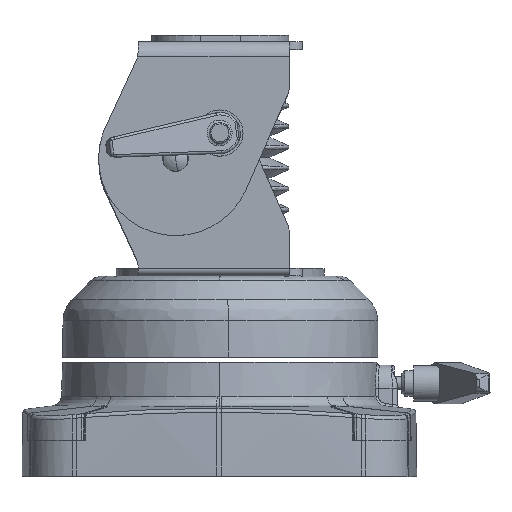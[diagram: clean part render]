
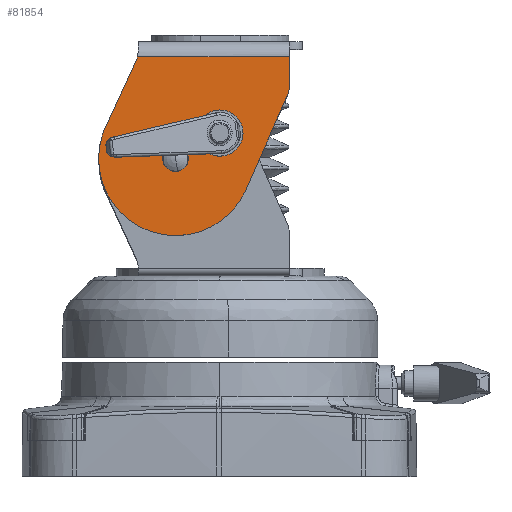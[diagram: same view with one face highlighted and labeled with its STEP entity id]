
A CAD part, top view. The second image highlights one B-rep face of the part: STEP entity #81854.
In plain terms, the highlighted planar face has unit normal (0, 0, 1) as drawn and (1, 0, 0) by its records, which use the part's own axes.
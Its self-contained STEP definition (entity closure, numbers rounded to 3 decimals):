
#669 = ORIENTED_EDGE ( 'NONE', *, *, #93306, .T. ) ;
#2057 = DIRECTION ( 'NONE',  ( 1., 0., 0. ) ) ;
#4076 = DIRECTION ( 'NONE',  ( 0., -1., 0. ) ) ;
#4213 = DIRECTION ( 'NONE',  ( 1., 0., 0. ) ) ;
#5379 = ORIENTED_EDGE ( 'NONE', *, *, #129612, .F. ) ;
#6177 = CARTESIAN_POINT ( 'NONE',  ( 979.936, 479.201, -35.149 ) ) ;
#6237 = CARTESIAN_POINT ( 'NONE',  ( 979.936, 504.084, -42.501 ) ) ;
#7080 = FACE_OUTER_BOUND ( 'NONE', #24698, .T. ) ;
#7109 = DIRECTION ( 'NONE',  ( 1., 0., 0. ) ) ;
#7696 = LINE ( 'NONE', #53536, #92075 ) ;
#9217 = EDGE_CURVE ( 'NONE', #23262, #88440, #88037, .T. ) ;
#10669 = CARTESIAN_POINT ( 'NONE',  ( 979.936, 491.973, -7.442 ) ) ;
#12423 = CARTESIAN_POINT ( 'NONE',  ( 979.936, 492.477, -6. ) ) ;
#13903 = VERTEX_POINT ( 'NONE', #141041 ) ;
#17860 = DIRECTION ( 'NONE',  ( 1., 0., 0. ) ) ;
#18985 = AXIS2_PLACEMENT_3D ( 'NONE', #43867, #7109, #156896 ) ;
#23262 = VERTEX_POINT ( 'NONE', #12423 ) ;
#23356 = ORIENTED_EDGE ( 'NONE', *, *, #98836, .F. ) ;
#24698 = EDGE_LOOP ( 'NONE', ( #23356, #28033, #118975, #128248, #108858, #160775, #669, #162362 ) ) ;
#27327 = LINE ( 'NONE', #110293, #86181 ) ;
#28033 = ORIENTED_EDGE ( 'NONE', *, *, #9217, .T. ) ;
#31053 = CARTESIAN_POINT ( 'NONE',  ( 979.936, 507.284, -45.701 ) ) ;
#31308 = LINE ( 'NONE', #95563, #135319 ) ;
#32617 = DIRECTION ( 'NONE',  ( 0., 0., -1. ) ) ;
#32698 = VERTEX_POINT ( 'NONE', #58301 ) ;
#34480 = FACE_BOUND ( 'NONE', #51083, .T. ) ;
#38594 = CARTESIAN_POINT ( 'NONE',  ( 979.936, 507.284, -45.701 ) ) ;
#39740 = VECTOR ( 'NONE', #89287, 1000. ) ;
#42897 = ORIENTED_EDGE ( 'NONE', *, *, #136977, .F. ) ;
#43744 = CARTESIAN_POINT ( 'NONE',  ( 979.936, 551.033, -20.661 ) ) ;
#43867 = CARTESIAN_POINT ( 'NONE',  ( 979.936, 524.604, -35.701 ) ) ;
#44647 = CARTESIAN_POINT ( 'NONE',  ( 979.936, 484.708, -4.093 ) ) ;
#46015 = CIRCLE ( 'NONE', #80774, 30. ) ;
#51072 = DIRECTION ( 'NONE',  ( 0., 0.402, 0.916 ) ) ;
#51083 = EDGE_LOOP ( 'NONE', ( #97971, #100785 ) ) ;
#53536 = CARTESIAN_POINT ( 'NONE',  ( 979.936, 551.708, -17.446 ) ) ;
#53542 = DIRECTION ( 'NONE',  ( 0., 0., -1. ) ) ;
#54131 = CIRCLE ( 'NONE', #18985, 8.1 ) ;
#54863 = VECTOR ( 'NONE', #155191, 1000. ) ;
#56930 = CARTESIAN_POINT ( 'NONE',  ( 979.936, 551.708, 121.501 ) ) ;
#58301 = CARTESIAN_POINT ( 'NONE',  ( 979.936, 510.484, -42.501 ) ) ;
#58661 = CIRCLE ( 'NONE', #155291, 8.1 ) ;
#59772 = VERTEX_POINT ( 'NONE', #73820 ) ;
#61636 = VERTEX_POINT ( 'NONE', #148043 ) ;
#63013 = EDGE_CURVE ( 'NONE', #61636, #142704, #73077, .T. ) ;
#68064 = AXIS2_PLACEMENT_3D ( 'NONE', #31053, #17860, #142430 ) ;
#69908 = VERTEX_POINT ( 'NONE', #71325 ) ;
#71325 = CARTESIAN_POINT ( 'NONE',  ( 979.936, 551.708, -17.446 ) ) ;
#73077 = CIRCLE ( 'NONE', #68064, 30. ) ;
#73820 = CARTESIAN_POINT ( 'NONE',  ( 979.936, 510.484, -48.901 ) ) ;
#76151 = CARTESIAN_POINT ( 'NONE',  ( 979.936, 510.484, -48.901 ) ) ;
#77546 = DIRECTION ( 'NONE',  ( 1., 0., 0. ) ) ;
#79414 = LINE ( 'NONE', #10669, #154046 ) ;
#80486 = EDGE_LOOP ( 'NONE', ( #144340, #158272, #5379, #42897 ) ) ;
#80774 = AXIS2_PLACEMENT_3D ( 'NONE', #38594, #77546, #152714 ) ;
#81609 = DIRECTION ( 'NONE',  ( 1., 0., 0. ) ) ;
#81854 = ADVANCED_FACE ( 'NONE', ( #7080, #99256, #34480 ), #155714, .T. ) ;
#82885 = VERTEX_POINT ( 'NONE', #155633 ) ;
#84501 = CIRCLE ( 'NONE', #131751, 8. ) ;
#86181 = VECTOR ( 'NONE', #123455, 1000. ) ;
#86252 = VERTEX_POINT ( 'NONE', #156071 ) ;
#87158 = VERTEX_POINT ( 'NONE', #98640 ) ;
#87781 = VERTEX_POINT ( 'NONE', #147077 ) ;
#88037 = CIRCLE ( 'NONE', #134097, 8. ) ;
#88440 = VERTEX_POINT ( 'NONE', #140604 ) ;
#89287 = DIRECTION ( 'NONE',  ( 0., 1., 0. ) ) ;
#92075 = VECTOR ( 'NONE', #155052, 1000. ) ;
#93306 = EDGE_CURVE ( 'NONE', #126003, #69908, #84501, .T. ) ;
#95563 = CARTESIAN_POINT ( 'NONE',  ( 979.936, 551.708, -6. ) ) ;
#95899 = EDGE_CURVE ( 'NONE', #69908, #86252, #7696, .T. ) ;
#97971 = ORIENTED_EDGE ( 'NONE', *, *, #100752, .F. ) ;
#98640 = CARTESIAN_POINT ( 'NONE',  ( 979.936, 524.604, -43.801 ) ) ;
#98836 = EDGE_CURVE ( 'NONE', #23262, #86252, #31308, .T. ) ;
#99256 = FACE_BOUND ( 'NONE', #80486, .T. ) ;
#100752 = EDGE_CURVE ( 'NONE', #87158, #82885, #58661, .T. ) ;
#100769 = CARTESIAN_POINT ( 'NONE',  ( 979.936, 543.708, -17.446 ) ) ;
#100785 = ORIENTED_EDGE ( 'NONE', *, *, #108169, .F. ) ;
#103448 = CARTESIAN_POINT ( 'NONE',  ( 979.936, 524.604, -35.701 ) ) ;
#104683 = CARTESIAN_POINT ( 'NONE',  ( 979.936, 510.484, -42.501 ) ) ;
#108169 = EDGE_CURVE ( 'NONE', #82885, #87158, #54131, .T. ) ;
#108858 = ORIENTED_EDGE ( 'NONE', *, *, #63013, .T. ) ;
#109280 = VECTOR ( 'NONE', #4076, 1000. ) ;
#110293 = CARTESIAN_POINT ( 'NONE',  ( 979.936, 504.084, -48.901 ) ) ;
#115029 = DIRECTION ( 'NONE',  ( 0., 0., -1. ) ) ;
#118406 = DIRECTION ( 'NONE',  ( 0., 0., -1. ) ) ;
#118975 = ORIENTED_EDGE ( 'NONE', *, *, #123777, .T. ) ;
#120839 = DIRECTION ( 'NONE',  ( 0., 1., 0. ) ) ;
#123455 = DIRECTION ( 'NONE',  ( 0., 0., -1. ) ) ;
#123777 = EDGE_CURVE ( 'NONE', #88440, #139329, #79414, .T. ) ;
#123855 = EDGE_CURVE ( 'NONE', #139329, #61636, #46015, .T. ) ;
#125282 = DIRECTION ( 'NONE',  ( 0., -0.419, -0.908 ) ) ;
#126003 = VERTEX_POINT ( 'NONE', #43744 ) ;
#126906 = AXIS2_PLACEMENT_3D ( 'NONE', #56930, #81609, #118406 ) ;
#128248 = ORIENTED_EDGE ( 'NONE', *, *, #123855, .T. ) ;
#129612 = EDGE_CURVE ( 'NONE', #13903, #59772, #132045, .T. ) ;
#131751 = AXIS2_PLACEMENT_3D ( 'NONE', #100769, #2057, #115029 ) ;
#132045 = LINE ( 'NONE', #76151, #39740 ) ;
#133098 = VECTOR ( 'NONE', #51072, 1000. ) ;
#133527 = DIRECTION ( 'NONE',  ( -1., 0., 0. ) ) ;
#134097 = AXIS2_PLACEMENT_3D ( 'NONE', #44647, #133527, #32617 ) ;
#135319 = VECTOR ( 'NONE', #120839, 1000. ) ;
#135950 = CARTESIAN_POINT ( 'NONE',  ( 979.936, 534.605, -58.093 ) ) ;
#136977 = EDGE_CURVE ( 'NONE', #87781, #13903, #27327, .T. ) ;
#136996 = LINE ( 'NONE', #138336, #133098 ) ;
#138336 = CARTESIAN_POINT ( 'NONE',  ( 979.936, 551.033, -20.661 ) ) ;
#139329 = VERTEX_POINT ( 'NONE', #6177 ) ;
#140604 = CARTESIAN_POINT ( 'NONE',  ( 979.936, 491.973, -7.442 ) ) ;
#141041 = CARTESIAN_POINT ( 'NONE',  ( 979.936, 504.084, -48.901 ) ) ;
#142430 = DIRECTION ( 'NONE',  ( 0., 0., -1. ) ) ;
#142704 = VERTEX_POINT ( 'NONE', #135950 ) ;
#144340 = ORIENTED_EDGE ( 'NONE', *, *, #150029, .F. ) ;
#144599 = LINE ( 'NONE', #6237, #109280 ) ;
#145677 = EDGE_CURVE ( 'NONE', #59772, #32698, #156892, .T. ) ;
#147077 = CARTESIAN_POINT ( 'NONE',  ( 979.936, 504.084, -42.501 ) ) ;
#148043 = CARTESIAN_POINT ( 'NONE',  ( 979.936, 507.284, -75.701 ) ) ;
#148793 = EDGE_CURVE ( 'NONE', #142704, #126003, #136996, .T. ) ;
#150029 = EDGE_CURVE ( 'NONE', #32698, #87781, #144599, .T. ) ;
#152714 = DIRECTION ( 'NONE',  ( 0., 0., -1. ) ) ;
#154046 = VECTOR ( 'NONE', #125282, 1000. ) ;
#155052 = DIRECTION ( 'NONE',  ( 0., 0., 1. ) ) ;
#155191 = DIRECTION ( 'NONE',  ( 0., 0., 1. ) ) ;
#155291 = AXIS2_PLACEMENT_3D ( 'NONE', #103448, #4213, #53542 ) ;
#155633 = CARTESIAN_POINT ( 'NONE',  ( 979.936, 524.604, -27.601 ) ) ;
#155714 = PLANE ( 'NONE',  #126906 ) ;
#156071 = CARTESIAN_POINT ( 'NONE',  ( 979.936, 551.708, -6. ) ) ;
#156892 = LINE ( 'NONE', #104683, #54863 ) ;
#156896 = DIRECTION ( 'NONE',  ( 0., 0., -1. ) ) ;
#158272 = ORIENTED_EDGE ( 'NONE', *, *, #145677, .F. ) ;
#160775 = ORIENTED_EDGE ( 'NONE', *, *, #148793, .T. ) ;
#162362 = ORIENTED_EDGE ( 'NONE', *, *, #95899, .T. ) ;
